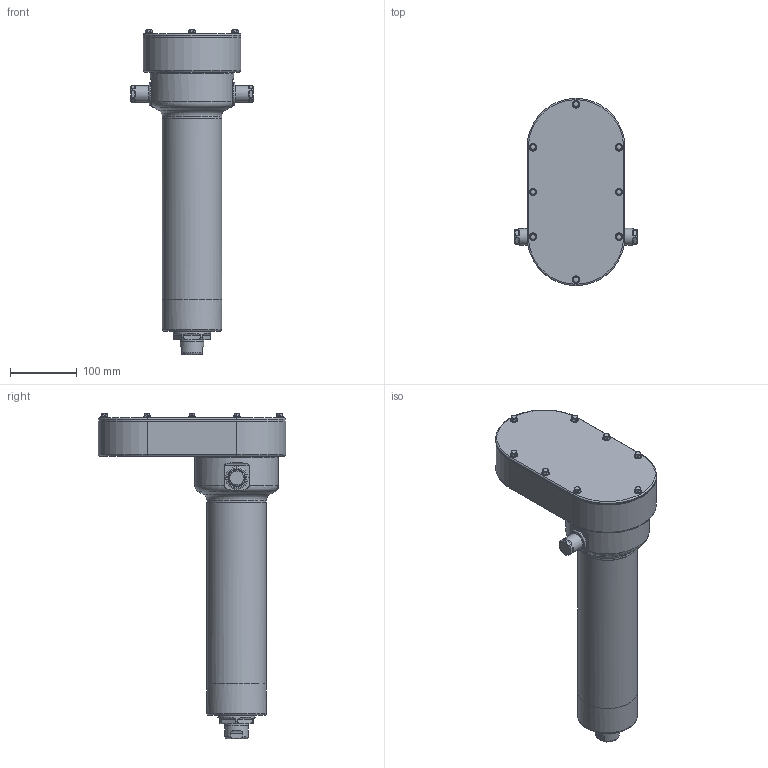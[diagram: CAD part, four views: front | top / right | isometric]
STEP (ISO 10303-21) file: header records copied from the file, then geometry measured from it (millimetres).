
FILE_DESCRIPTION (( 'STEP AP203' ), '1' );
FILE_NAME ('RSH25_RN04_SM175.000_RS-475076-1.step', '2024-11-15T10:48:52', ( '' ), ( '' ), 'SwSTEP 2.0', 'SolidWorks 2024', '' );
FILE_SCHEMA (( 'CONFIG_CONTROL_DESIGN' ));
Products named in the file (4): RSH25_RN04_SM175.000_RS-475076-1; Base_RSH25_RN04_SM175.000_RS-475076-1; 21251192_RSH25_RN04_SM175.000_RS-475076-1; tempJoin0_21259003_RSH25_RN04_SM175.000_RS-475076-1
Assembly tree (3 placements, depth 2):
  RSH25_RN04_SM175.000_RS-475076-1
    tempJoin0_21259003_RSH25_RN04_SM175.000_RS-475076-1
    21251192_RSH25_RN04_SM175.000_RS-475076-1
    Base_RSH25_RN04_SM175.000_RS-475076-1
Bounding box: 182.15 x 279.45 x 485.28 mm (x, y, z)
Volume: 3337964 mm3; surface area: 615276.4 mm2
Topology: 5 solids, 57 shells, 3011 faces, 7882 edges, 5039 vertices
Faces by surface type: cylinder 1265, plane 906, bspline 438, cone 207, torus 185, sphere 10
Full cylindrical faces by diameter (mm): 3.242 x6, 4.2 x9, 4.254 x4, 5 x24, 5.588 x8, 6 x17, 6.35 x5, 6.401 x1, 6.477 x2, 6.5 x8, 6.7 x16, 7.01 x4, 7.938 x1, 7.949 x9, 8 x9, 10 x9, 10.76 x1, 11.1 x8, 12.675 x1, 15 x2, 15.088 x1, 15.164 x1, 17.93 x1, 17.986 x1, 18 x1, 19.05 x2, 19.304 x2, 19.558 x1, 20.879 x1, 23.5 x2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
Entity records: 107531 total; most frequent: CARTESIAN_POINT 36791, DIRECTION 14669, ORIENTED_EDGE 14452, EDGE_CURVE 7226, AXIS2_PLACEMENT_3D 5842, VERTEX_POINT 4822, EDGE_LOOP 3708, FACE_OUTER_BOUND 3333
